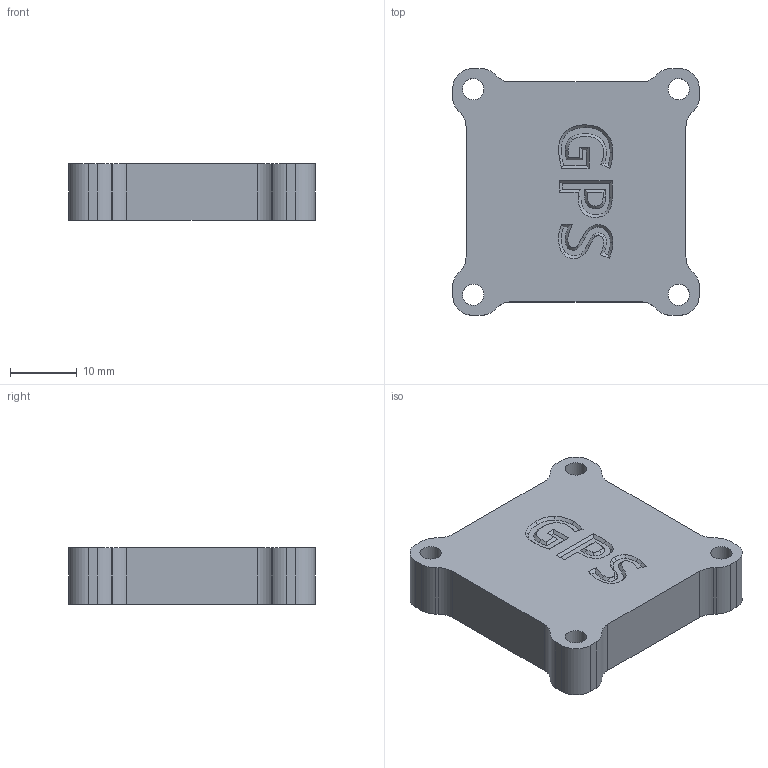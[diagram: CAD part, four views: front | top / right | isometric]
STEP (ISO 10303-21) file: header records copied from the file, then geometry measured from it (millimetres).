
FILE_DESCRIPTION(/* description */ ('STEP AP242','CAx-IF Rec.Pracs.---Representation and Presentation of Product Manufacturing Information (PMI)---4.0---2014-10-13','CAx-IF Rec.Pracs.---3D Tessellated Geometry---0.4---2014-09-14','2;1'),/* implementation_level */ '2;1');
FILE_NAME(/* name */ 'Case - Part 7',/* time_stamp */ '2024-08-18T13:23:26Z',/* author */ (''),/* organization */ (''),/* preprocessor_version */ 'ST-DEVELOPER v20',/* originating_system */ ' ',/* authorisation */ ' ');
FILE_SCHEMA (('AP242_MANAGED_MODEL_BASED_3D_ENGINEERING_MIM_LF { 1 0 10303 442 1 1 4 }'));
Length unit declared in the file: metre
Products named in the file (1): Part 7
Bounding box: 37 x 37 x 8.5 mm (x, y, z)
Volume: 4343.7 mm3; surface area: 4635.8 mm2
Topology: 1 solids, 1 shells, 135 faces, 393 edges, 262 vertices
Faces by surface type: plane 60, bspline 47, cylinder 28
Full cylindrical faces by diameter (mm): 3.2 x4
Entity records: 4745 total; most frequent: CARTESIAN_POINT 1550, ORIENTED_EDGE 770, DIRECTION 476, EDGE_CURVE 385, VERTEX_POINT 258, LINE 178, VECTOR 178, EDGE_LOOP 149
